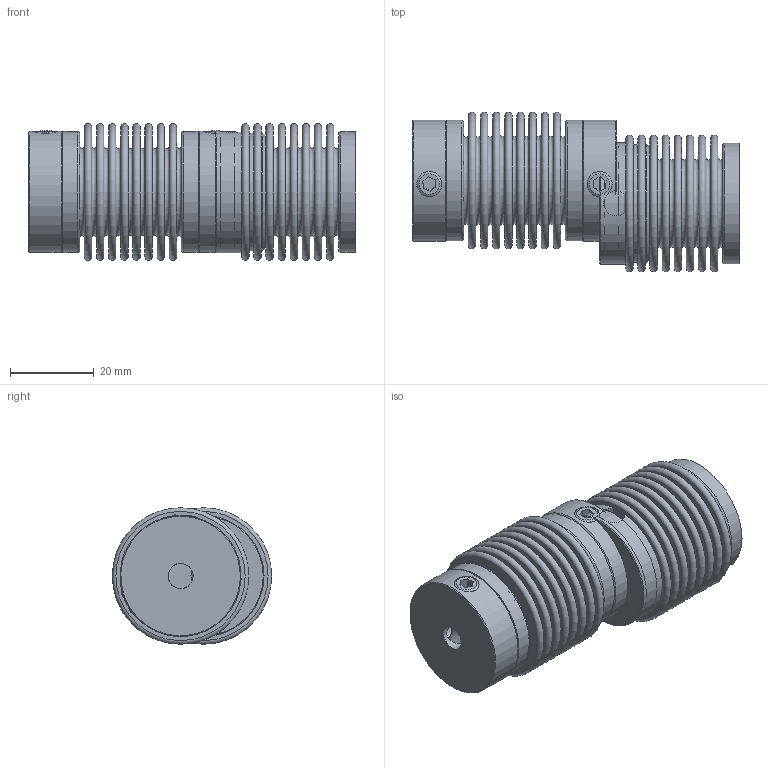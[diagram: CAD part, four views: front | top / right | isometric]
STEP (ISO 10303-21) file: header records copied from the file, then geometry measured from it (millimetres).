
FILE_DESCRIPTION( ( 'Unknown' ), '1' );
FILE_NAME( 'C:/Dokumente und Einstellungen/Sven/Desktop/cad - homepage/KB1/KB1-45-48.stp', 'Unknown', ( 'Unknown' ), ( 'Unknown' ), 'XStep 1.0', 'Unknown', ' ' );
FILE_SCHEMA( ( 'automotive_design' ) );
Length unit declared in the file: millimetre
Products named in the file (4): Assem1; Socket Set Screw Cup Point_DIN_DIN 916 - M6 x 8-N; BL45_Standard; MN45_Standard_0
Bounding box: 78.2 x 38.15 x 32.67 mm (x, y, z)
Volume: 27350.6 mm3; surface area: 51128.8 mm2
Topology: 10 solids, 10 shells, 256 faces, 493 edges, 320 vertices
Faces by surface type: plane 125, torus 76, cylinder 31, cone 24
Full cylindrical faces by diameter (mm): 6 x14, 28.2 x7, 28.8 x4, 29 x3
Entity records: 3076 total; most frequent: CARTESIAN_POINT 476, DIRECTION 443, ORIENTED_EDGE 242, AXIS2_PLACEMENT_3D 212, EDGE_LOOP 201, FACE_OUTER_BOUND 152, EDGE_CURVE 121, VERTEX_POINT 113
